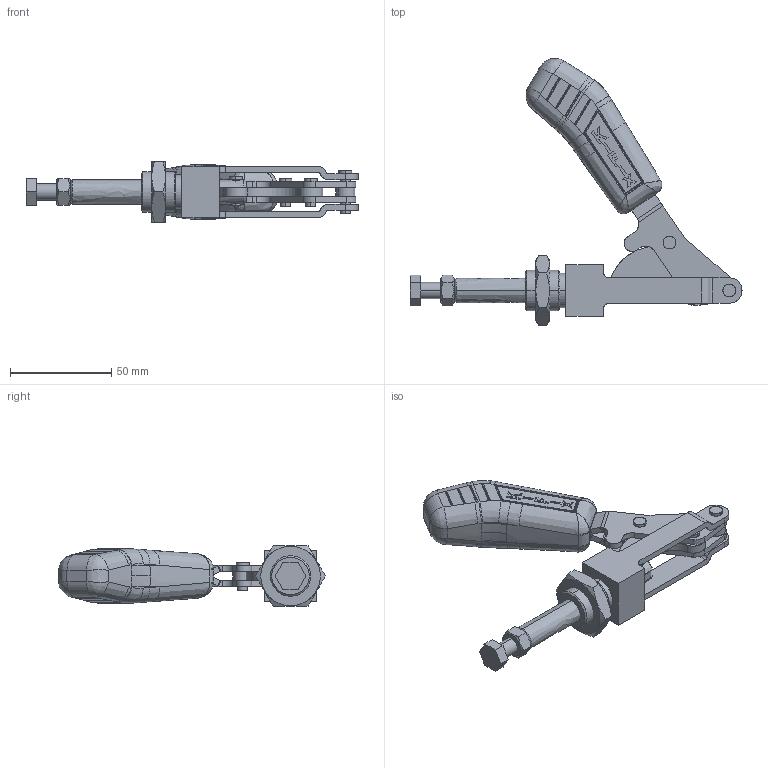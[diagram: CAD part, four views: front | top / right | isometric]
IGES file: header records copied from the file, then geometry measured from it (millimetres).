
Start section: SolidWorks IGES file using analytic representation for surfaces
Global section: file name: C:\Projetos\Grampos\KF-015\KF-015\KF-015.IGS; native system: SolidWorks 2013; preprocessor: SolidWorks 2013; author: Ricardo; date: 140826.143834; units: millimetre
Bounding box: 164.18 x 132.08 x 30 mm (x, y, z)
Surface area: 45226.6 mm2 (no closed solid volume)
Topology: 0 solids, 0 shells, 594 faces, 6886 edges, 6871 vertices
Faces by surface type: bspline 365, revolution 229
